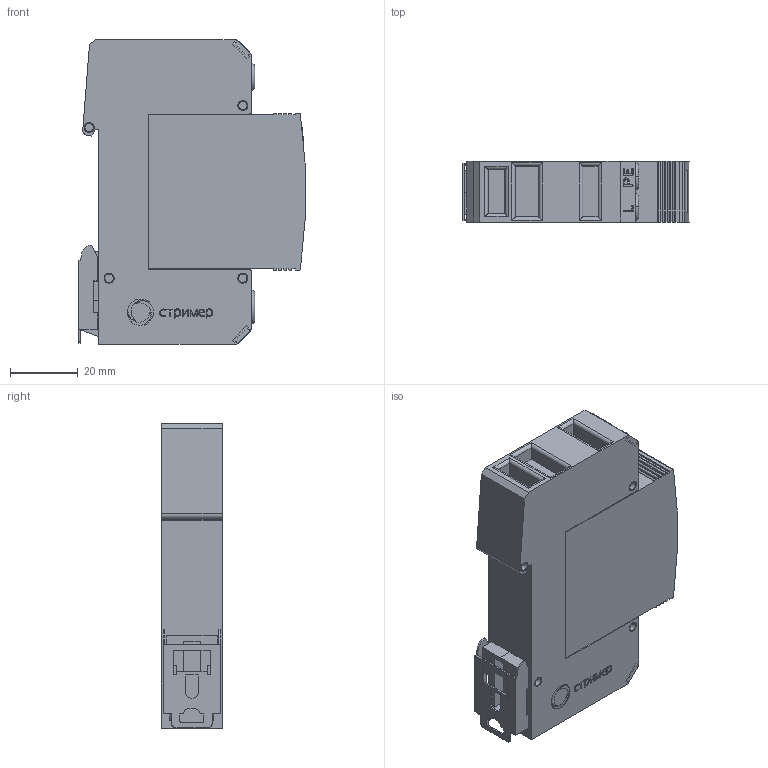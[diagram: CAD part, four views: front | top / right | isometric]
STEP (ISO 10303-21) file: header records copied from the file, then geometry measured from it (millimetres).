
FILE_DESCRIPTION(('TFLEX Exchange Step'),'2;1');
FILE_NAME('X2\041004400442\X0\.122.006.stp', '2022-08-01T13:44:33+03:00',('Pavel Oborin'),('Unknown organisation'),'TFLEX Exchange 2019.2','T-FLEX CAD','Unknown authorisation');
FILE_SCHEMA( ('AUTOMOTIVE_DESIGN { 1 0 10303 214 1 1 1 1 }') );
Length unit declared in the file: millimetre
Products named in the file (7): 0; буква N; Буква L PE; Планка; ВНЕШНИЙ МОДУЛЬ 18 без ушек; Корпус 18 3 контакта; Арт.122.006
Assembly tree (6 placements, depth 2):
  Арт.122.006
    0
    буква N
    Буква L PE
    Планка
    ВНЕШНИЙ МОДУЛЬ 18 без ушек
    Корпус 18 3 контакта
Bounding box: 66.98 x 18.1 x 90.08 mm (x, y, z)
Volume: 86158 mm3; surface area: 24151.8 mm2
Topology: 31 solids, 31 shells, 487 faces, 1209 edges, 794 vertices
Faces by surface type: plane 321, cylinder 109, bspline 51, torus 6
Entity records: 17842 total; most frequent: CARTESIAN_POINT 6112, ORIENTED_EDGE 2418, DIRECTION 2233, EDGE_CURVE 1209, VECTOR 895, LINE 895, VERTEX_POINT 794, AXIS2_PLACEMENT_3D 669
